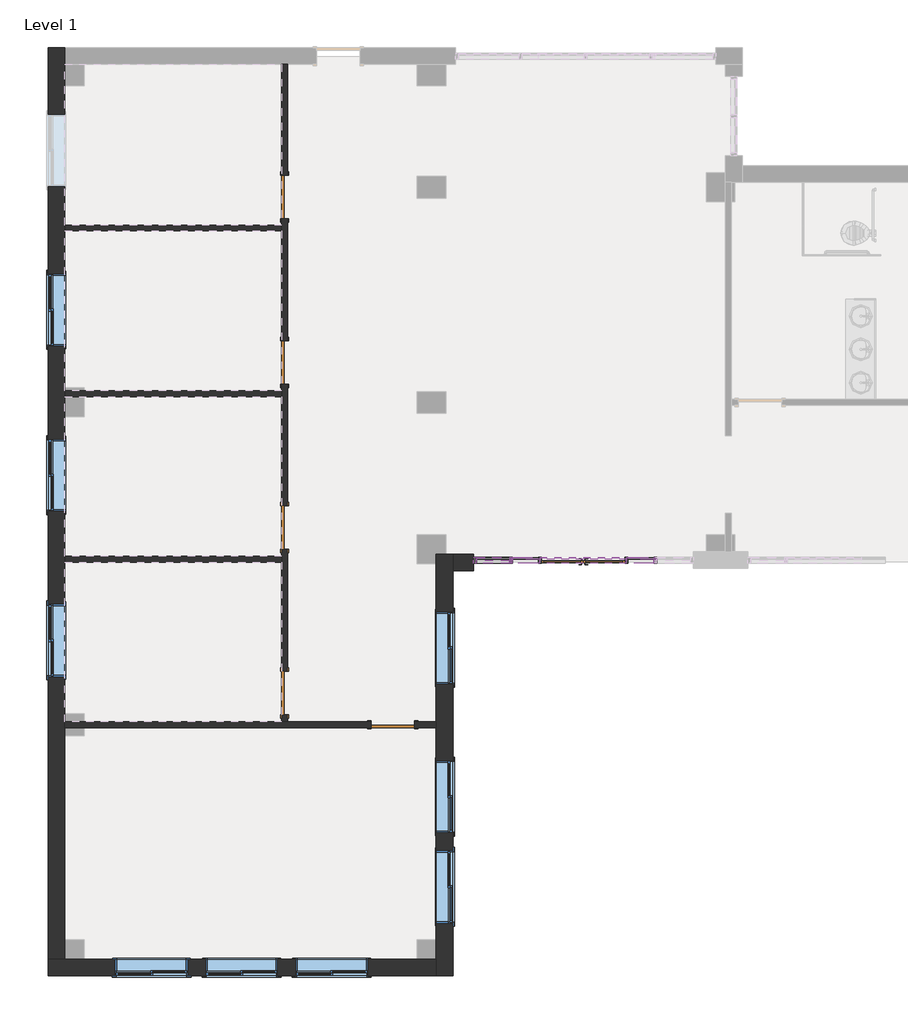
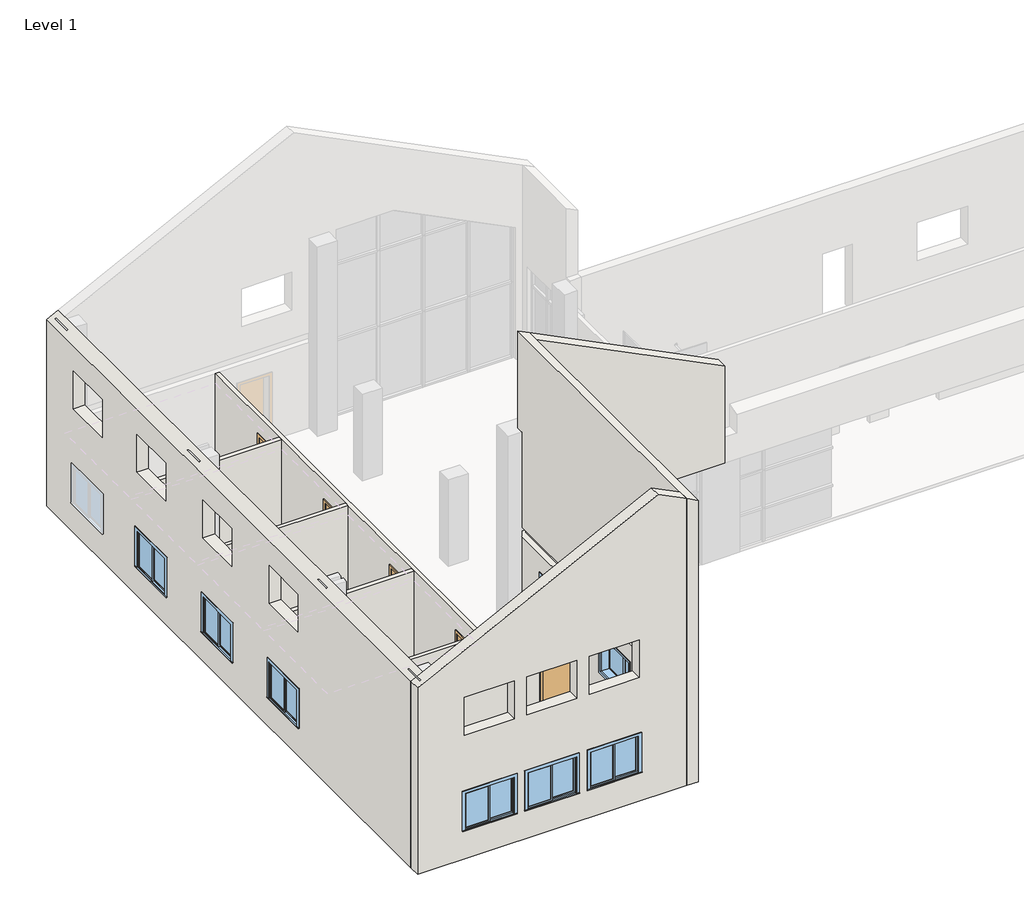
# One storey, part 1 of 4: 21 members, 9 walls, 9 windows, 6 doors, 6 plates.
"""IFC4 building model written with IfcOpenShell, lengths in millimetres."""

from ifc_helpers import new_model, si_unit, origin, origin_with_axes, place, context, project, spatial, polyline, outline, extrude, faceted_brep, transform, mapped, element, save
from components import curtain_wall_store_front_dbl_store_front_double_door_b1cda55e, door_eb9f8b14, member_f3028526, member_b5e65c95, member_d60e8053, member_a715cb85, member_2b49869a, member_2fae0574, member_4ab4c2f5, member_47bfaf8a, member_b3f2e294, member_75074519, member_c4de40ee, member_3ca69e07, member_338de68b, system_panel_glazed_23a32a5b, system_panel_glazed_2f00aa6c, system_panel_glazed_4b03a3f1, system_panel_glazed_88a41a63, system_panel_solid_52285aff, window_8313e728

model = new_model("IFC4")

# Units and contexts
model_context = context("Model", 3, world=origin())
ifc_project = project(units=[si_unit("LENGTHUNIT", "METRE", prefix="MILLI")], contexts=[model_context])

# Site, building, storey
site = spatial("IfcSite", under=ifc_project)
building = spatial("IfcBuilding", under=site)
storey = spatial("IfcBuildingStorey", under=building, Name="Level 1", Elevation=0.0)

# Doors
placement = place(None, origin())
curtain_wall_store_front_dbl_store_front_double_door_shape = curtain_wall_store_front_dbl_store_front_double_door_b1cda55e(model_context)
element("IfcDoor", 1, ObjectType="Curtain Wall-Store Front-Dbl : Store Front Double Door", at=placement, inside=storey, context=model_context, shape_type="MappedRepresentation", body=[
    mapped(curtain_wall_store_front_dbl_store_front_double_door_shape, transform((-2655.3516552, 175.3980424, 0.0), x_axis=(1.0, 0.0, 0.0), y_axis=(0.0, 1.0, 0.0), z_axis=(0.0, 0.0, 1.0))),
])
door_shape = door_eb9f8b14(model_context)
element("IfcDoor", 2, ObjectType="Single-Flush : 36\" x 84\"", at=placement, inside=storey, context=model_context, shape_type="MappedRepresentation", body=[
    mapped(door_shape, transform((-6668.5516552, -3294.8769576, 0.0), x_axis=(1.0, 0.0, 0.0), y_axis=(0.0, 1.0, 0.0), z_axis=(0.0, 0.0, 1.0))),
])
element("IfcDoor", 3, ObjectType="Single-Flush : 36\" x 84\"", at=placement, inside=storey, context=model_context, shape_type="MappedRepresentation", body=[
    mapped(door_shape, transform((-8949.7891552, -2623.3644576, 0.0), x_axis=(0.0, -1.0, 0.0), y_axis=(1.0, 0.0, 0.0), z_axis=(0.0, 0.0, 1.0))),
])
element("IfcDoor", 4, ObjectType="Single-Flush : 36\" x 84\"", at=placement, inside=storey, context=model_context, shape_type="MappedRepresentation", body=[
    mapped(door_shape, transform((-8949.7891552, 862.7855424, 0.0), x_axis=(0.0, -1.0, 0.0), y_axis=(1.0, 0.0, 0.0), z_axis=(0.0, 0.0, 1.0))),
])
element("IfcDoor", 5, ObjectType="Single-Flush : 36\" x 84\"", at=placement, inside=storey, context=model_context, shape_type="MappedRepresentation", body=[
    mapped(door_shape, transform((-8949.7891552, 4339.4105424, 0.0), x_axis=(0.0, -1.0, 0.0), y_axis=(1.0, 0.0, 0.0), z_axis=(0.0, 0.0, 1.0))),
])
element("IfcDoor", 6, ObjectType="Single-Flush : 36\" x 84\"", at=placement, inside=storey, context=model_context, shape_type="MappedRepresentation", body=[
    mapped(door_shape, transform((-8949.7891552, 7820.7980424, 0.0), x_axis=(0.0, -1.0, 0.0), y_axis=(1.0, 0.0, 0.0), z_axis=(0.0, 0.0, 1.0))),
])

# Members
member_shape = member_f3028526(model_context)
element("IfcMember", 7, ObjectType="Rectangular Mullion : 2.5\" x 5\" Rectangular", at=placement, inside=storey, context=model_context, shape_type="MappedRepresentation", body=[
    mapped(member_shape, transform((-4211.1016552, 175.3980424, 2286.0), x_axis=(0.0, 0.0, 1.0), y_axis=(0.0, -1.0, 0.0), z_axis=(1.0, 0.0, 0.0))),
])
element("IfcMember", 8, ObjectType="Rectangular Mullion : 2.5\" x 5\" Rectangular", at=placement, inside=storey, context=model_context, shape_type="MappedRepresentation", body=[
    mapped(member_shape, transform((-4211.1016552, 175.3980424, 1066.8), x_axis=(0.0, 0.0, 1.0), y_axis=(0.0, -1.0, 0.0), z_axis=(1.0, 0.0, 0.0))),
])
member_2_shape = member_b5e65c95(model_context)
element("IfcMember", 9, ObjectType="Rectangular Mullion : 2.5\" x 5\" Rectangular", at=placement, inside=storey, context=model_context, shape_type="MappedRepresentation", body=[
    mapped(member_2_shape, transform((-3569.7516552, 175.3980424, 2286.0), x_axis=(0.0, 0.0, 1.0), y_axis=(0.0, -1.0, 0.0), z_axis=(1.0, 0.0, 0.0))),
])
element("IfcMember", 10, ObjectType="Rectangular Mullion : 2.5\" x 5\" Rectangular", at=placement, inside=storey, context=model_context, shape_type="MappedRepresentation", body=[
    mapped(member_2_shape, transform((-1163.1016552, 175.3980424, 2286.0), x_axis=(0.0, 0.0, 1.0), y_axis=(0.0, -1.0, 0.0), z_axis=(1.0, 0.0, 0.0))),
])
member_3_shape = member_d60e8053(model_context)
element("IfcMember", 11, ObjectType="Rectangular Mullion : 2.5\" x 5\" Rectangular", at=placement, inside=storey, context=model_context, shape_type="MappedRepresentation", body=[
    mapped(member_3_shape, transform((-1740.9516552, 175.3980424, 2286.0), x_axis=(0.0, 0.0, 1.0), y_axis=(0.0, -1.0, 0.0), z_axis=(1.0, 0.0, 0.0))),
])
member_4_shape = member_a715cb85(model_context)
element("IfcMember", 12, ObjectType="Rectangular Mullion : 2.5\" x 5\" Rectangular", at=placement, inside=storey, context=model_context, shape_type="MappedRepresentation", body=[
    mapped(member_4_shape, transform((-4179.3516552, 175.3980424, 0.0), x_axis=(1.0, 0.0, 0.0), y_axis=(0.0, -1.0, 0.0), z_axis=(0.0, 0.0, -1.0))),
])
element("IfcMember", 13, ObjectType="Rectangular Mullion : 2.5\" x 5\" Rectangular", at=placement, inside=storey, context=model_context, shape_type="MappedRepresentation", body=[
    mapped(member_4_shape, transform((-1131.3516552, 175.3980424, 0.0), x_axis=(1.0, 0.0, 0.0), y_axis=(0.0, -1.0, 0.0), z_axis=(0.0, 0.0, -1.0))),
])
member_5_shape = member_2b49869a(model_context)
element("IfcMember", 14, ObjectType="Rectangular Mullion : 2.5\" x 5\" Rectangular", at=placement, inside=storey, context=model_context, shape_type="MappedRepresentation", body=[
    mapped(member_5_shape, transform((-4179.3516552, 175.3980424, 1066.8), x_axis=(1.0, 0.0, 0.0), y_axis=(0.0, -1.0, 0.0), z_axis=(0.0, 0.0, -1.0))),
])
element("IfcMember", 15, ObjectType="Rectangular Mullion : 2.5\" x 5\" Rectangular", at=placement, inside=storey, context=model_context, shape_type="MappedRepresentation", body=[
    mapped(member_5_shape, transform((-1131.3516552, 175.3980424, 1066.8), x_axis=(1.0, 0.0, 0.0), y_axis=(0.0, -1.0, 0.0), z_axis=(0.0, 0.0, -1.0))),
])
member_6_shape = member_2fae0574(model_context)
element("IfcMember", 16, ObjectType="Rectangular Mullion : 2.5\" x 5\" Rectangular", at=placement, inside=storey, context=model_context, shape_type="MappedRepresentation", body=[
    mapped(member_6_shape, transform((-1740.9516552, 175.3980424, 3060.0), x_axis=(0.0, 0.0, 1.0), y_axis=(0.0, -1.0, 0.0), z_axis=(1.0, 0.0, 0.0))),
])
member_7_shape = member_4ab4c2f5(model_context)
element("IfcMember", 17, ObjectType="Rectangular Mullion : 2.5\" x 5\" Rectangular", at=placement, inside=storey, context=model_context, shape_type="MappedRepresentation", body=[
    mapped(member_7_shape, transform((-4179.3516552, 175.3980424, 3060.0), x_axis=(0.0, 0.0, 1.0), y_axis=(0.0, -1.0, 0.0), z_axis=(1.0, 0.0, 0.0))),
])
member_8_shape = member_47bfaf8a(model_context)
element("IfcMember", 18, ObjectType="Rectangular Mullion : 2.5\" x 5\" Rectangular", at=placement, inside=storey, context=model_context, shape_type="MappedRepresentation", body=[
    mapped(member_8_shape, transform((-1131.3516552, 175.3980424, 3060.0), x_axis=(0.0, 0.0, 1.0), y_axis=(0.0, -1.0, 0.0), z_axis=(1.0, 0.0, 0.0))),
])
element("IfcMember", 19, ObjectType="Rectangular Mullion : 2.5\" x 5\" Rectangular", at=placement, inside=storey, context=model_context, shape_type="MappedRepresentation", body=[
    mapped(member_8_shape, transform((-3569.7516552, 175.3980424, 3060.0), x_axis=(0.0, 0.0, 1.0), y_axis=(0.0, -1.0, 0.0), z_axis=(1.0, 0.0, 0.0))),
])
element("IfcMember", 20, ObjectType="Rectangular Mullion : 2.5\" x 5\" Rectangular", at=placement, inside=storey, context=model_context, shape_type="MappedRepresentation", body=[
    mapped(member_4_shape, transform((-3569.7516552, 175.3980424, 0.0), x_axis=(1.0, 0.0, 0.0), y_axis=(0.0, -1.0, 0.0), z_axis=(0.0, 0.0, -1.0))),
])
member_9_shape = member_b3f2e294(model_context)
element("IfcMember", 21, ObjectType="Rectangular Mullion : 2.5\" x 5\" Rectangular", at=placement, inside=storey, context=model_context, shape_type="MappedRepresentation", body=[
    mapped(member_9_shape, transform((-3569.7516552, 175.3980424, 1066.8), x_axis=(1.0, 0.0, 0.0), y_axis=(0.0, -1.0, 0.0), z_axis=(0.0, 0.0, -1.0))),
])
element("IfcMember", 22, ObjectType="Rectangular Mullion : 2.5\" x 5\" Rectangular", at=placement, inside=storey, context=model_context, shape_type="MappedRepresentation", body=[
    mapped(member_9_shape, transform((-1740.9516552, 175.3980424, 1066.8), x_axis=(1.0, 0.0, 0.0), y_axis=(0.0, -1.0, 0.0), z_axis=(0.0, 0.0, -1.0))),
])
member_10_shape = member_75074519(model_context)
element("IfcMember", 23, ObjectType="Rectangular Mullion : 2.5\" x 5\" Rectangular", at=placement, inside=storey, context=model_context, shape_type="MappedRepresentation", body=[
    mapped(member_10_shape, transform((-4968.3391552, 175.3980424, 2286.0), x_axis=(-1.0, 0.0, 0.0), y_axis=(0.0, -1.0, 0.0), z_axis=(0.0, 0.0, 1.0))),
])
member_11_shape = member_c4de40ee(model_context)
element("IfcMember", 24, ObjectType="Rectangular Mullion : 2.5\" x 5\" Rectangular", at=placement, inside=storey, context=model_context, shape_type="MappedRepresentation", body=[
    mapped(member_11_shape, transform((-4968.3391552, 175.3980424, 1066.8), x_axis=(-1.0, 0.0, 0.0), y_axis=(0.0, -1.0, 0.0), z_axis=(0.0, 0.0, 1.0))),
])
member_12_shape = member_3ca69e07(model_context)
element("IfcMember", 25, ObjectType="Rectangular Mullion : 2.5\" x 5\" Rectangular", at=placement, inside=storey, context=model_context, shape_type="MappedRepresentation", body=[
    mapped(member_12_shape, transform((-4179.3516552, 175.3980424, 2286.0), x_axis=(1.0, 0.0, 0.0), y_axis=(0.0, -1.0, 0.0), z_axis=(0.0, 0.0, -1.0))),
])
element("IfcMember", 26, ObjectType="Rectangular Mullion : 2.5\" x 5\" Rectangular", at=placement, inside=storey, context=model_context, shape_type="MappedRepresentation", body=[
    mapped(member_12_shape, transform((-1131.3516552, 175.3980424, 2286.0), x_axis=(1.0, 0.0, 0.0), y_axis=(0.0, -1.0, 0.0), z_axis=(0.0, 0.0, -1.0))),
])
member_13_shape = member_338de68b(model_context)
element("IfcMember", 27, ObjectType="Rectangular Mullion : 2.5\" x 5\" Rectangular", at=placement, inside=storey, context=model_context, shape_type="MappedRepresentation", body=[
    mapped(member_13_shape, transform((-4968.3391552, 175.3980424, 2996.5), x_axis=(-1.0, 0.0, 0.0), y_axis=(0.0, -1.0, 0.0), z_axis=(0.0, 0.0, 1.0))),
])

# Plates
system_panel_glazed_shape = system_panel_glazed_23a32a5b(model_context)
element("IfcPlate", 28, ObjectType="System Panel : Glazed", at=placement, inside=storey, context=model_context, shape_type="MappedRepresentation", body=[
    mapped(system_panel_glazed_shape, transform((-4557.9704052, 175.3980424, 0.0), x_axis=(1.0, 0.0, 0.0), y_axis=(0.0, 1.0, 0.0), z_axis=(0.0, 0.0, 1.0))),
])
system_panel_glazed_2_shape = system_panel_glazed_2f00aa6c(model_context)
element("IfcPlate", 29, ObjectType="System Panel : Glazed", at=placement, inside=storey, context=model_context, shape_type="MappedRepresentation", body=[
    mapped(system_panel_glazed_2_shape, transform((-3874.5516552, 175.3980424, 0.0), x_axis=(1.0, 0.0, 0.0), y_axis=(0.0, 1.0, 0.0), z_axis=(0.0, 0.0, 1.0))),
])
element("IfcPlate", 30, ObjectType="System Panel : Glazed", at=placement, inside=storey, context=model_context, shape_type="MappedRepresentation", body=[
    mapped(system_panel_glazed_2_shape, transform((-1436.1516552, 175.3980424, 0.0), x_axis=(1.0, 0.0, 0.0), y_axis=(0.0, 1.0, 0.0), z_axis=(0.0, 0.0, 1.0))),
])
system_panel_glazed_3_shape = system_panel_glazed_4b03a3f1(model_context)
element("IfcPlate", 31, ObjectType="System Panel : Glazed", at=placement, inside=storey, context=model_context, shape_type="MappedRepresentation", body=[
    mapped(system_panel_glazed_3_shape, transform((-4557.9704052, 175.3980424, 1098.55), x_axis=(1.0, 0.0, 0.0), y_axis=(0.0, 1.0, 0.0), z_axis=(0.0, 0.0, 1.0))),
])
system_panel_glazed_4_shape = system_panel_glazed_88a41a63(model_context)
element("IfcPlate", 32, ObjectType="System Panel : Glazed", at=placement, inside=storey, context=model_context, shape_type="MappedRepresentation", body=[
    mapped(system_panel_glazed_4_shape, transform((-2655.3516552, 175.3980424, 2317.75), x_axis=(1.0, 0.0, 0.0), y_axis=(0.0, 1.0, 0.0), z_axis=(0.0, 0.0, 1.0))),
])
system_panel_solid_shape = system_panel_solid_52285aff(model_context)
element("IfcPlate", 33, ObjectType="System Panel : Solid", at=placement, inside=storey, context=model_context, shape_type="MappedRepresentation", body=[
    mapped(system_panel_solid_shape, transform((-4557.9704052, 175.3980424, 2317.75), x_axis=(1.0, 0.0, 0.0), y_axis=(0.0, 1.0, 0.0), z_axis=(0.0, 0.0, 1.0))),
])

# Walls
element("IfcWall", 34, ObjectType="Exterior - Brick on Mtl. Stud", at=placement, inside=storey, context=model_context, shape_type="Brep", body=[
    faceted_brep([(-5754.1516552, 300.8105424, 0.0), (-5754.1516552, 97.6105424, 0.0), (-5754.1516552, -3232.9644576, 0.0), (-5754.1516552, -3356.7894576, 0.0), (-5754.1516552, -7827.1894576, 0.0), (-5754.1516552, -8233.5894576, 0.0), (-5754.1516552, -8586.0144576, 0.0), (-5754.1516552, -8586.0144576, 9230.55), (-5754.1516552, -8233.5894576, 9230.55), (-5754.1516552, 300.8105424, 9230.55), (-5754.1516552, 300.8105424, 6100.0), (-5754.1516552, 300.8105424, 3060.0), (-5754.1516552, -3232.9644576, 3060.0), (-5754.1516552, -3356.7894576, 3060.0), (-5754.1516552, -8233.5894576, 3060.0), (-5754.1516552, -8398.6894576, 3060.0), (-5754.1516552, -8398.6894576, 2755.2), (-5754.1516552, -8233.5894576, 2755.2), (-5754.1516552, -3356.7894576, 2755.2), (-5754.1516552, -3232.9644576, 2755.2), (-5754.1516552, 300.8105424, 2755.2), (-5754.1516552, -7471.5894576, 2133.6), (-5754.1516552, -7471.5894576, 914.4), (-5754.1516552, -5947.5894576, 914.4), (-5754.1516552, -5947.5894576, 2133.6), (-5754.1516552, -5572.9394576, 2133.6), (-5754.1516552, -5572.9394576, 914.4), (-5754.1516552, -4048.9394576, 914.4), (-5754.1516552, -4048.9394576, 2133.6), (-5754.1516552, -2439.2144576, 2133.6), (-5754.1516552, -2439.2144576, 914.4), (-5754.1516552, -915.2144576, 914.4), (-5754.1516552, -915.2144576, 2133.6), (-5754.1516552, -5572.9394576, 5193.6), (-5754.1516552, -5572.9394576, 3974.4), (-5754.1516552, -4048.9394576, 3974.4), (-5754.1516552, -4048.9394576, 5193.6), (-5754.1516552, -7471.5894576, 5193.6), (-5754.1516552, -7471.5894576, 3974.4), (-5754.1516552, -5947.5894576, 3974.4), (-5754.1516552, -5947.5894576, 5193.6), (-5401.7266552, -8586.0144576, 0.0), (-5401.7266552, -51.6144576, 0.0), (-5401.7266552, 300.8105424, 0.0), (-5401.7266552, 300.8105424, 2755.2), (-5401.7266552, 175.3980424, 2755.2), (-5401.7266552, 175.3980424, 3060.0), (-5401.7266552, 300.8105424, 3060.0), (-5401.7266552, 300.8105424, 9054.3375), (-5401.7266552, -51.6144576, 9054.3375), (-5401.7266552, -8586.0144576, 9054.3375), (-5401.7266552, -7471.5894576, 914.4), (-5401.7266552, -7471.5894576, 2133.6), (-5401.7266552, -5947.5894576, 2133.6), (-5401.7266552, -5947.5894576, 914.4), (-5401.7266552, -5572.9394576, 914.4), (-5401.7266552, -5572.9394576, 2133.6), (-5401.7266552, -4048.9394576, 2133.6), (-5401.7266552, -4048.9394576, 914.4), (-5401.7266552, -2439.2144576, 914.4), (-5401.7266552, -2439.2144576, 2133.6), (-5401.7266552, -915.2144576, 2133.6), (-5401.7266552, -915.2144576, 914.4), (-5401.7266552, -5572.9394576, 3974.4), (-5401.7266552, -5572.9394576, 5193.6), (-5401.7266552, -4048.9394576, 5193.6), (-5401.7266552, -4048.9394576, 3974.4), (-5401.7266552, -7471.5894576, 3974.4), (-5401.7266552, -7471.5894576, 5193.6), (-5401.7266552, -5947.5894576, 5193.6), (-5401.7266552, -5947.5894576, 3974.4), (-5550.9516552, 300.8105424, 0.0), (-5589.0516552, -8398.6894576, 2755.2), (-5589.0516552, 175.3980424, 2755.2), (-5589.0516552, 175.3980424, 3060.0), (-5589.0516552, -8398.6894576, 3060.0)], [[[0, 1, 2, 3, 4, 5, 6, 7, 8, 9, 10, 11, 12, 13, 14, 15, 16, 17, 18, 19, 20], [21, 22, 23, 24], [25, 26, 27, 28], [29, 30, 31, 32], [33, 34, 35, 36], [37, 38, 39, 40]], [[41, 42, 43, 44, 45, 46, 47, 48, 49, 50], [51, 52, 53, 54], [55, 56, 57, 58], [59, 60, 61, 62], [63, 64, 65, 66], [67, 68, 69, 70]], [[6, 5, 4, 3, 2, 1, 0, 71, 43, 42, 41]], [[22, 21, 52, 51]], [[23, 22, 51, 54]], [[24, 23, 54, 53]], [[21, 24, 53, 52]], [[26, 25, 56, 55]], [[27, 26, 55, 58]], [[28, 27, 58, 57]], [[25, 28, 57, 56]], [[30, 29, 60, 59]], [[31, 30, 59, 62]], [[32, 31, 62, 61]], [[29, 32, 61, 60]], [[34, 33, 64, 63]], [[35, 34, 63, 66]], [[36, 35, 66, 65]], [[33, 36, 65, 64]], [[38, 37, 68, 67]], [[39, 38, 67, 70]], [[40, 39, 70, 69]], [[37, 40, 69, 68]], [[9, 8, 7, 50, 49, 48]], [[72, 73, 45, 44, 20, 19, 18, 17, 16]], [[74, 75, 15, 14, 13, 12, 11, 47, 46]], [[73, 72, 75, 74]], [[75, 72, 16, 15]], [[9, 48, 47, 11, 10]], [[43, 71, 0, 20, 44]], [[7, 6, 41, 50]], [[73, 74, 46, 45]]]),
])
element("IfcWall", 35, ObjectType="Exterior - Brick on Mtl. Stud", at=placement, inside=storey, context=model_context, shape_type="Brep", body=[
    faceted_brep([(-5754.1516552, -8233.5894576, 0.0), (-6160.5516552, -8233.5894576, 0.0), (-13177.3016552, -8233.5894576, 0.0), (-13583.7016552, -8233.5894576, 0.0), (-13936.1266552, -8233.5894576, 0.0), (-13936.1266552, -8233.5894576, 6006.3375), (-13583.7016552, -8233.5894576, 6182.55), (-6620.9266552, -8233.5894576, 9663.9375), (-5754.1516552, -8233.5894576, 9230.55), (-5754.1516552, -8233.5894576, 6100.0), (-5754.1516552, -8233.5894576, 3060.0), (-13596.4016552, -8233.5894576, 3060.0), (-13596.4016552, -8233.5894576, 2755.2), (-5754.1516552, -8233.5894576, 2755.2), (-12516.9016552, -8233.5894576, 2133.6), (-12516.9016552, -8233.5894576, 914.4), (-10992.9016552, -8233.5894576, 914.4), (-10992.9016552, -8233.5894576, 2133.6), (-10618.2516552, -8233.5894576, 2133.6), (-10618.2516552, -8233.5894576, 914.4), (-9094.2516552, -8233.5894576, 914.4), (-9094.2516552, -8233.5894576, 2133.6), (-8719.6016552, -8233.5894576, 2133.6), (-8719.6016552, -8233.5894576, 914.4), (-7195.6016552, -8233.5894576, 914.4), (-7195.6016552, -8233.5894576, 2133.6), (-8719.6016552, -8233.5894576, 5193.6), (-8719.6016552, -8233.5894576, 3974.4), (-7195.6016552, -8233.5894576, 3974.4), (-7195.6016552, -8233.5894576, 5193.6), (-10618.2516552, -8233.5894576, 5193.6), (-10618.2516552, -8233.5894576, 3974.4), (-9094.2516552, -8233.5894576, 3974.4), (-9094.2516552, -8233.5894576, 5193.6), (-12516.9016552, -8233.5894576, 5193.6), (-12516.9016552, -8233.5894576, 3974.4), (-10992.9016552, -8233.5894576, 3974.4), (-10992.9016552, -8233.5894576, 5193.6), (-13936.1266552, -8586.0144576, 0.0), (-5754.1516552, -8586.0144576, 0.0), (-5754.1516552, -8586.0144576, 9230.55), (-6620.9266552, -8586.0144576, 9663.9375), (-13936.1266552, -8586.0144576, 6006.3375), (-12516.9016552, -8586.0144576, 914.4), (-12516.9016552, -8586.0144576, 2133.6), (-10992.9016552, -8586.0144576, 2133.6), (-10992.9016552, -8586.0144576, 914.4), (-10618.2516552, -8586.0144576, 914.4), (-10618.2516552, -8586.0144576, 2133.6), (-9094.2516552, -8586.0144576, 2133.6), (-9094.2516552, -8586.0144576, 914.4), (-8719.6016552, -8586.0144576, 914.4), (-8719.6016552, -8586.0144576, 2133.6), (-7195.6016552, -8586.0144576, 2133.6), (-7195.6016552, -8586.0144576, 914.4), (-8719.6016552, -8586.0144576, 3974.4), (-8719.6016552, -8586.0144576, 5193.6), (-7195.6016552, -8586.0144576, 5193.6), (-7195.6016552, -8586.0144576, 3974.4), (-10618.2516552, -8586.0144576, 3974.4), (-10618.2516552, -8586.0144576, 5193.6), (-9094.2516552, -8586.0144576, 5193.6), (-9094.2516552, -8586.0144576, 3974.4), (-12516.9016552, -8586.0144576, 3974.4), (-12516.9016552, -8586.0144576, 5193.6), (-10992.9016552, -8586.0144576, 5193.6), (-10992.9016552, -8586.0144576, 3974.4), (-13596.4016552, -8398.6894576, 2755.2), (-5754.1516552, -8398.6894576, 2755.2), (-5754.1516552, -8398.6894576, 3060.0), (-13596.4016552, -8398.6894576, 3060.0)], [[[0, 1, 2, 3, 4, 5, 6, 7, 8, 9, 10, 11, 12, 13], [14, 15, 16, 17], [18, 19, 20, 21], [22, 23, 24, 25], [26, 27, 28, 29], [30, 31, 32, 33], [34, 35, 36, 37]], [[38, 39, 40, 41, 42], [43, 44, 45, 46], [47, 48, 49, 50], [51, 52, 53, 54], [55, 56, 57, 58], [59, 60, 61, 62], [63, 64, 65, 66]], [[4, 3, 2, 1, 0, 39, 38]], [[15, 14, 44, 43]], [[16, 15, 43, 46]], [[17, 16, 46, 45]], [[14, 17, 45, 44]], [[19, 18, 48, 47]], [[20, 19, 47, 50]], [[21, 20, 50, 49]], [[18, 21, 49, 48]], [[23, 22, 52, 51]], [[24, 23, 51, 54]], [[25, 24, 54, 53]], [[22, 25, 53, 52]], [[27, 26, 56, 55]], [[28, 27, 55, 58]], [[29, 28, 58, 57]], [[26, 29, 57, 56]], [[31, 30, 60, 59]], [[32, 31, 59, 62]], [[33, 32, 62, 61]], [[30, 33, 61, 60]], [[35, 34, 64, 63]], [[36, 35, 63, 66]], [[37, 36, 66, 65]], [[34, 37, 65, 64]], [[8, 7, 41, 40]], [[7, 6, 5, 42, 41]], [[12, 67, 68, 13]], [[69, 70, 11, 10]], [[67, 70, 69, 68]], [[70, 67, 12, 11]], [[5, 4, 38, 42]], [[8, 40, 39, 0, 13, 68, 69, 10, 9]]]),
])
element("IfcWall", 36, ObjectType="Exterior - Brick on Mtl. Stud", at=placement, inside=storey, context=model_context, shape_type="Brep", body=[
    faceted_brep([(-13583.7016552, -8233.5894576, 0.0), (-13583.7016552, -7827.1894576, 0.0), (-13583.7016552, -3523.4769576, 0.0), (-13583.7016552, -3356.7894576, 0.0), (-13583.7016552, -3232.9644576, 0.0), (-13583.7016552, -3066.2769576, 0.0), (-13583.7016552, 131.3449174, 0.0), (-13583.7016552, 255.1699174, 0.0), (-13583.7016552, 3191.6480424, 0.0), (-13583.7016552, 3619.4792924, 0.0), (-13583.7016552, 3743.3042924, 0.0), (-13583.7016552, 3801.2480424, 0.0), (-13583.7016552, 7107.6136674, 0.0), (-13583.7016552, 7231.4386674, 0.0), (-13583.7016552, 10162.3605424, 0.0), (-13583.7016552, 10614.7980424, 0.0), (-13583.7016552, 10967.2230424, 0.0), (-13583.7016552, 10967.2230424, 6182.55), (-13583.7016552, 10614.7980424, 6182.55), (-13583.7016552, -8233.5894576, 6182.55), (-13583.7016552, -8233.5894576, 6100.0), (-13583.7016552, -8233.5894576, 3060.0), (-13583.7016552, -3356.7894576, 3060.0), (-13583.7016552, -3232.9644576, 3060.0), (-13583.7016552, 124.5980424, 3060.0), (-13583.7016552, 248.4230424, 3060.0), (-13583.7016552, 3605.9855424, 3060.0), (-13583.7016552, 3729.8105424, 3060.0), (-13583.7016552, 7087.3730424, 3060.0), (-13583.7016552, 7211.1980424, 3060.0), (-13583.7016552, 10779.8980424, 3060.0), (-13583.7016552, 10779.8980424, 2755.2), (-13583.7016552, 7231.4386674, 2755.2), (-13583.7016552, 7107.6136674, 2755.2), (-13583.7016552, 3743.3042924, 2755.2), (-13583.7016552, 3619.4792924, 2755.2), (-13583.7016552, 255.1699174, 2755.2), (-13583.7016552, 131.3449174, 2755.2), (-13583.7016552, -3232.9644576, 2755.2), (-13583.7016552, -3356.7894576, 2755.2), (-13583.7016552, -8233.5894576, 2755.2), (-13583.7016552, -757.2582076, 2133.6), (-13583.7016552, -757.2582076, 914.4), (-13583.7016552, -2281.2582076, 914.4), (-13583.7016552, -2281.2582076, 2133.6), (-13583.7016552, 2724.1292924, 2133.6), (-13583.7016552, 2724.1292924, 914.4), (-13583.7016552, 1200.1292924, 914.4), (-13583.7016552, 1200.1292924, 2133.6), (-13583.7016552, 6205.5167924, 2133.6), (-13583.7016552, 6205.5167924, 914.4), (-13583.7016552, 4681.5167924, 914.4), (-13583.7016552, 4681.5167924, 2133.6), (-13583.7016552, 9567.0480424, 2133.6), (-13583.7016552, 9567.0480424, 914.4), (-13583.7016552, 8043.0480424, 914.4), (-13583.7016552, 8043.0480424, 2133.6), (-13583.7016552, 9567.0480424, 5193.6), (-13583.7016552, 9567.0480424, 3974.4), (-13583.7016552, 8043.0480424, 3974.4), (-13583.7016552, 8043.0480424, 5193.6), (-13583.7016552, 6205.5167924, 5193.6), (-13583.7016552, 6205.5167924, 3974.4), (-13583.7016552, 4681.5167924, 3974.4), (-13583.7016552, 4681.5167924, 5193.6), (-13583.7016552, 2724.1292924, 5193.6), (-13583.7016552, 2724.1292924, 3974.4), (-13583.7016552, 1200.1292924, 3974.4), (-13583.7016552, 1200.1292924, 5193.6), (-13583.7016552, -757.2582076, 5193.6), (-13583.7016552, -757.2582076, 3974.4), (-13583.7016552, -2281.2582076, 3974.4), (-13583.7016552, -2281.2582076, 5193.6), (-13936.1266552, 10967.2230424, 0.0), (-13936.1266552, -8233.5894576, 0.0), (-13936.1266552, -8233.5894576, 6006.3375), (-13936.1266552, 10967.2230424, 6006.3375), (-13936.1266552, -757.2582076, 914.4), (-13936.1266552, -757.2582076, 2133.6), (-13936.1266552, -2281.2582076, 2133.6), (-13936.1266552, -2281.2582076, 914.4), (-13936.1266552, 2724.1292924, 914.4), (-13936.1266552, 2724.1292924, 2133.6), (-13936.1266552, 1200.1292924, 2133.6), (-13936.1266552, 1200.1292924, 914.4), (-13936.1266552, 6205.5167924, 914.4), (-13936.1266552, 6205.5167924, 2133.6), (-13936.1266552, 4681.5167924, 2133.6), (-13936.1266552, 4681.5167924, 914.4), (-13936.1266552, 9567.0480424, 914.4), (-13936.1266552, 9567.0480424, 2133.6), (-13936.1266552, 8043.0480424, 2133.6), (-13936.1266552, 8043.0480424, 914.4), (-13936.1266552, 9567.0480424, 3974.4), (-13936.1266552, 9567.0480424, 5193.6), (-13936.1266552, 8043.0480424, 5193.6), (-13936.1266552, 8043.0480424, 3974.4), (-13936.1266552, 6205.5167924, 3974.4), (-13936.1266552, 6205.5167924, 5193.6), (-13936.1266552, 4681.5167924, 5193.6), (-13936.1266552, 4681.5167924, 3974.4), (-13936.1266552, 2724.1292924, 3974.4), (-13936.1266552, 2724.1292924, 5193.6), (-13936.1266552, 1200.1292924, 5193.6), (-13936.1266552, 1200.1292924, 3974.4), (-13936.1266552, -757.2582076, 3974.4), (-13936.1266552, -757.2582076, 5193.6), (-13936.1266552, -2281.2582076, 5193.6), (-13936.1266552, -2281.2582076, 3974.4), (-13596.4016552, 10779.8980424, 2755.2), (-13596.4016552, -8233.5894576, 2755.2), (-13596.4016552, 10779.8980424, 3060.0), (-13596.4016552, -8233.5894576, 3060.0)], [[[0, 1, 2, 3, 4, 5, 6, 7, 8, 9, 10, 11, 12, 13, 14, 15, 16, 17, 18, 19, 20, 21, 22, 23, 24, 25, 26, 27, 28, 29, 30, 31, 32, 33, 34, 35, 36, 37, 38, 39, 40], [41, 42, 43, 44], [45, 46, 47, 48], [49, 50, 51, 52], [53, 54, 55, 56], [57, 58, 59, 60], [61, 62, 63, 64], [65, 66, 67, 68], [69, 70, 71, 72]], [[73, 74, 75, 76], [77, 78, 79, 80], [81, 82, 83, 84], [85, 86, 87, 88], [89, 90, 91, 92], [93, 94, 95, 96], [97, 98, 99, 100], [101, 102, 103, 104], [105, 106, 107, 108]], [[16, 15, 14, 13, 12, 11, 10, 9, 8, 7, 6, 5, 4, 3, 2, 1, 0, 74, 73]], [[42, 41, 78, 77]], [[43, 42, 77, 80]], [[44, 43, 80, 79]], [[41, 44, 79, 78]], [[46, 45, 82, 81]], [[47, 46, 81, 84]], [[48, 47, 84, 83]], [[45, 48, 83, 82]], [[50, 49, 86, 85]], [[51, 50, 85, 88]], [[52, 51, 88, 87]], [[49, 52, 87, 86]], [[54, 53, 90, 89]], [[55, 54, 89, 92]], [[56, 55, 92, 91]], [[53, 56, 91, 90]], [[58, 57, 94, 93]], [[59, 58, 93, 96]], [[60, 59, 96, 95]], [[57, 60, 95, 94]], [[62, 61, 98, 97]], [[63, 62, 97, 100]], [[64, 63, 100, 99]], [[61, 64, 99, 98]], [[66, 65, 102, 101]], [[67, 66, 101, 104]], [[68, 67, 104, 103]], [[65, 68, 103, 102]], [[70, 69, 106, 105]], [[71, 70, 105, 108]], [[72, 71, 108, 107]], [[69, 72, 107, 106]], [[19, 18, 17, 76, 75]], [[109, 110, 40, 39, 38, 37, 36, 35, 34, 33, 32, 31]], [[111, 30, 29, 28, 27, 26, 25, 24, 23, 22, 21, 112]], [[111, 109, 31, 30]], [[109, 111, 112, 110]], [[17, 16, 73, 76]], [[75, 74, 0, 40, 110, 112, 21, 20, 19]]]),
])
element("IfcWall", 37, ObjectType="Exterior - Brick on Mtl. Stud", at=placement, inside=storey, context=model_context, shape_type="Brep", body=[
    faceted_brep([(-5401.7266552, 300.8105424, 9054.3375), (341.8483448, 300.8105424, 6182.55), (341.8483448, 300.8105424, 3900.0), (341.8483448, 300.8105424, 3060.0), (-4968.3391552, 300.8105424, 3060.0), (-4968.3391552, 300.8105424, 0.0), (-5401.7266552, 300.8105424, 0.0), (341.8483448, -51.6144576, 6182.55), (-5401.7266552, -51.6144576, 9054.3375), (-5401.7266552, -51.6144576, 0.0), (-4968.3391552, -51.6144576, 0.0), (-4968.3391552, -51.6144576, 3060.0), (341.8483448, -51.6144576, 3060.0), (341.8483448, -51.6144576, 3900.0)], [[[0, 1, 2, 3, 4, 5, 6]], [[7, 8, 9, 10, 11, 12, 13]], [[9, 6, 5, 10]], [[1, 0, 8, 7]], [[0, 6, 9, 8]], [[3, 2, 1, 7, 13, 12]], [[4, 11, 10, 5]], [[11, 4, 3, 12]]]),
])
element("IfcWall", 38, ObjectType="Interior - 4 7/8\" Partition (1-hr)", at=placement, inside=storey, context=model_context, shape_type="Brep", body=[
    faceted_brep([(-8887.8766552, 4796.6105424, 0.0), (-8887.8766552, 7363.5980424, 0.0), (-8887.8766552, 7363.5980424, 2133.6), (-8887.8766552, 8277.9980424, 2133.6), (-8887.8766552, 8277.9980424, 0.0), (-8887.8766552, 10614.7980424, 0.0), (-8887.8766552, 10614.7980424, 2755.2), (-8887.8766552, -3232.9644576, 2755.2), (-8887.8766552, -3232.9644576, 0.0), (-8887.8766552, -3080.5644576, 0.0), (-8887.8766552, -3080.5644576, 2133.6), (-8887.8766552, -2166.1644576, 2133.6), (-8887.8766552, -2166.1644576, 0.0), (-8887.8766552, 405.5855424, 0.0), (-8887.8766552, 405.5855424, 2133.6), (-8887.8766552, 1319.9855424, 2133.6), (-8887.8766552, 1319.9855424, 0.0), (-8887.8766552, 3882.2105424, 0.0), (-8887.8766552, 3882.2105424, 2133.6), (-8887.8766552, 4796.6105424, 2133.6), (-9011.7016552, 7363.5980424, 2133.6), (-9011.7016552, 7363.5980424, 0.0), (-9011.7016552, 7231.4386674, 0.0), (-9011.7016552, 7107.6136674, 0.0), (-9011.7016552, 4796.6105424, 0.0), (-9011.7016552, 4796.6105424, 2133.6), (-9011.7016552, 3882.2105424, 2133.6), (-9011.7016552, 3882.2105424, 0.0), (-9011.7016552, 3743.3042924, 0.0), (-9011.7016552, 3619.4792924, 0.0), (-9011.7016552, 1319.9855424, 0.0), (-9011.7016552, 1319.9855424, 2133.6), (-9011.7016552, 405.5855424, 2133.6), (-9011.7016552, 405.5855424, 0.0), (-9011.7016552, 255.1699174, 0.0), (-9011.7016552, 131.3449174, 0.0), (-9011.7016552, -2166.1644576, 0.0), (-9011.7016552, -2166.1644576, 2133.6), (-9011.7016552, -3080.5644576, 2133.6), (-9011.7016552, -3080.5644576, 0.0), (-9011.7016552, -3232.9644576, 0.0), (-9011.7016552, -3232.9644576, 2755.2), (-9011.7016552, 131.3449174, 2755.2), (-9011.7016552, 255.1699174, 2755.2), (-9011.7016552, 3619.4792924, 2755.2), (-9011.7016552, 3743.3042924, 2755.2), (-9011.7016552, 7107.6136674, 2755.2), (-9011.7016552, 7231.4386674, 2755.2), (-9011.7016552, 10614.7980424, 2755.2), (-9011.7016552, 10614.7980424, 0.0), (-9011.7016552, 8277.9980424, 0.0), (-9011.7016552, 8277.9980424, 2133.6)], [[[0, 1, 2, 3, 4, 5, 6, 7, 8, 9, 10, 11, 12, 13, 14, 15, 16, 17, 18, 19]], [[20, 21, 22, 23, 24, 25, 26, 27, 28, 29, 30, 31, 32, 33, 34, 35, 36, 37, 38, 39, 40, 41, 42, 43, 44, 45, 46, 47, 48, 49, 50, 51]], [[40, 39, 9, 8]], [[36, 35, 34, 33, 13, 12]], [[30, 29, 28, 27, 17, 16]], [[50, 49, 5, 4]], [[24, 23, 22, 21, 1, 0]], [[8, 7, 41, 40]], [[10, 9, 39, 38]], [[11, 10, 38, 37]], [[12, 11, 37, 36]], [[14, 13, 33, 32]], [[15, 14, 32, 31]], [[16, 15, 31, 30]], [[18, 17, 27, 26]], [[19, 18, 26, 25]], [[0, 19, 25, 24]], [[2, 1, 21, 20]], [[3, 2, 20, 51]], [[4, 3, 51, 50]], [[7, 6, 48, 47, 46, 45, 44, 43, 42, 41]], [[6, 5, 49, 48]]]),
])
element("IfcWall", 39, ObjectType="Interior - 4 7/8\" Partition (1-hr)", at=placement, inside=storey, context=model_context, shape_type="Brep", body=[
    faceted_brep([(-6211.3516552, -3356.7894576, 2133.6), (-6211.3516552, -3356.7894576, 0.0), (-5754.1516552, -3356.7894576, 0.0), (-5754.1516552, -3356.7894576, 2755.2), (-13177.3016552, -3356.7894576, 2755.2), (-13583.7016552, -3356.7894576, 2755.2), (-13583.7016552, -3356.7894576, 0.0), (-13177.3016552, -3356.7894576, 0.0), (-7125.7516552, -3356.7894576, 0.0), (-7125.7516552, -3356.7894576, 2133.6), (-5754.1516552, -3232.9644576, 0.0), (-6211.3516552, -3232.9644576, 0.0), (-6211.3516552, -3232.9644576, 2133.6), (-7125.7516552, -3232.9644576, 2133.6), (-7125.7516552, -3232.9644576, 0.0), (-8887.8766552, -3232.9644576, 0.0), (-9011.7016552, -3232.9644576, 0.0), (-13177.3016552, -3232.9644576, 0.0), (-13583.7016552, -3232.9644576, 0.0), (-13583.7016552, -3232.9644576, 2755.2), (-13177.3016552, -3232.9644576, 2755.2), (-9011.7016552, -3232.9644576, 2755.2), (-8887.8766552, -3232.9644576, 2755.2), (-5754.1516552, -3232.9644576, 2755.2)], [[[0, 1, 2, 3, 4, 5, 6, 7, 8, 9]], [[10, 11, 12, 13, 14, 15, 16, 17, 18, 19, 20, 21, 22, 23]], [[2, 1, 11, 10]], [[8, 7, 6, 18, 17, 16, 15, 14]], [[12, 11, 1, 0]], [[13, 12, 0, 9]], [[14, 13, 9, 8]], [[5, 4, 3, 23, 22, 21, 20, 19]], [[3, 2, 10, 23]], [[6, 5, 19, 18]]]),
])
element("IfcWall", 40, ObjectType="Interior - 4 7/8\" Partition (1-hr)", at=placement, inside=storey, context=model_context, shape_type="SweptSolid", body=[
    extrude(outline(polyline([(-9011.7016552, 131.3449174), (-13583.7016552, 131.3449174), (-13583.7016552, 255.1699174), (-9011.7016552, 255.1699174), (-9011.7016552, 131.3449174)])), origin_with_axes(), (0.0, 0.0, 1.0), 2755.2),
])
element("IfcWall", 41, ObjectType="Interior - 4 7/8\" Partition (1-hr)", at=placement, inside=storey, context=model_context, shape_type="Brep", body=[
    faceted_brep([(-13583.7016552, 3619.4792924, 0.0), (-13177.3016552, 3619.4792924, 0.0), (-9011.7016552, 3619.4792924, 0.0), (-9011.7016552, 3619.4792924, 2755.2), (-13177.3016552, 3619.4792924, 2755.2), (-13583.7016552, 3619.4792924, 2755.2), (-13583.7016552, 3743.3042924, 0.0), (-13583.7016552, 3743.3042924, 2755.2), (-13177.3016552, 3743.3042924, 2755.2), (-9011.7016552, 3743.3042924, 2755.2), (-9011.7016552, 3743.3042924, 0.0), (-13177.3016552, 3743.3042924, 0.0)], [[[0, 1, 2, 3, 4, 5]], [[6, 7, 8, 9, 10, 11]], [[2, 1, 0, 6, 11, 10]], [[3, 2, 10, 9]], [[5, 4, 3, 9, 8, 7]], [[0, 5, 7, 6]]]),
])
element("IfcWall", 42, ObjectType="Interior - 4 7/8\" Partition (1-hr)", at=placement, inside=storey, context=model_context, shape_type="SweptSolid", body=[
    extrude(outline(polyline([(-9011.7016552, 7107.6136674), (-13583.7016552, 7107.6136674), (-13583.7016552, 7231.4386674), (-9011.7016552, 7231.4386674), (-9011.7016552, 7107.6136674)])), origin_with_axes(), (0.0, 0.0, 1.0), 2755.2),
])

# Windows
window_shape = window_8313e728(model_context)
element("IfcWindow", 43, ObjectType="Slider with Trim : 60\" x 48\"", at=placement, inside=storey, context=model_context, shape_type="MappedRepresentation", body=[
    mapped(window_shape, transform((-13759.9141552, -1519.2582076, 0.0), x_axis=(0.0, 1.0, 0.0), y_axis=(-1.0, 0.0, 0.0), z_axis=(0.0, 0.0, 1.0))),
])
element("IfcWindow", 44, ObjectType="Slider with Trim : 60\" x 48\"", at=placement, inside=storey, context=model_context, shape_type="MappedRepresentation", body=[
    mapped(window_shape, transform((-13759.9141552, 1962.1292924, 0.0), x_axis=(0.0, 1.0, 0.0), y_axis=(-1.0, 0.0, 0.0), z_axis=(0.0, 0.0, 1.0))),
])
element("IfcWindow", 45, ObjectType="Slider with Trim : 60\" x 48\"", at=placement, inside=storey, context=model_context, shape_type="MappedRepresentation", body=[
    mapped(window_shape, transform((-13759.9141552, 5443.5167924, 0.0), x_axis=(0.0, 1.0, 0.0), y_axis=(-1.0, 0.0, 0.0), z_axis=(0.0, 0.0, 1.0))),
])
element("IfcWindow", 46, ObjectType="Slider with Trim : 60\" x 48\"", at=placement, inside=storey, context=model_context, shape_type="MappedRepresentation", body=[
    mapped(window_shape, transform((-11754.9016552, -8409.8019576, 0.0), x_axis=(-1.0, 0.0, 0.0), y_axis=(0.0, -1.0, 0.0), z_axis=(0.0, 0.0, 1.0))),
])
element("IfcWindow", 47, ObjectType="Slider with Trim : 60\" x 48\"", at=placement, inside=storey, context=model_context, shape_type="MappedRepresentation", body=[
    mapped(window_shape, transform((-9856.2516552, -8409.8019576, 0.0), x_axis=(-1.0, 0.0, 0.0), y_axis=(0.0, -1.0, 0.0), z_axis=(0.0, 0.0, 1.0))),
])
element("IfcWindow", 48, ObjectType="Slider with Trim : 60\" x 48\"", at=placement, inside=storey, context=model_context, shape_type="MappedRepresentation", body=[
    mapped(window_shape, transform((-7957.6016552, -8409.8019576, 0.0), x_axis=(-1.0, 0.0, 0.0), y_axis=(0.0, -1.0, 0.0), z_axis=(0.0, 0.0, 1.0))),
])
element("IfcWindow", 49, ObjectType="Slider with Trim : 60\" x 48\"", at=placement, inside=storey, context=model_context, shape_type="MappedRepresentation", body=[
    mapped(window_shape, transform((-5577.9391552, -6709.5894576, 0.0), x_axis=(0.0, -1.0, 0.0), y_axis=(1.0, 0.0, 0.0), z_axis=(0.0, 0.0, 1.0))),
])
element("IfcWindow", 50, ObjectType="Slider with Trim : 60\" x 48\"", at=placement, inside=storey, context=model_context, shape_type="MappedRepresentation", body=[
    mapped(window_shape, transform((-5577.9391552, -4810.9394576, 0.0), x_axis=(0.0, -1.0, 0.0), y_axis=(1.0, 0.0, 0.0), z_axis=(0.0, 0.0, 1.0))),
])
element("IfcWindow", 51, ObjectType="Slider with Trim : 60\" x 48\"", at=placement, inside=storey, context=model_context, shape_type="MappedRepresentation", body=[
    mapped(window_shape, transform((-5577.9391552, -1677.2144576, 0.0), x_axis=(0.0, -1.0, 0.0), y_axis=(1.0, 0.0, 0.0), z_axis=(0.0, 0.0, 1.0))),
])

save(model, "model.ifc")
